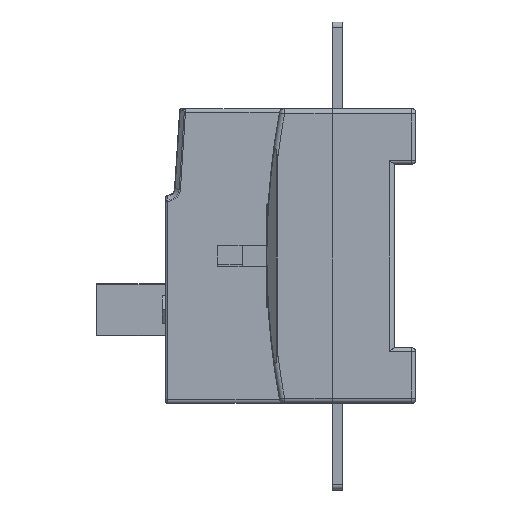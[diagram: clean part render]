
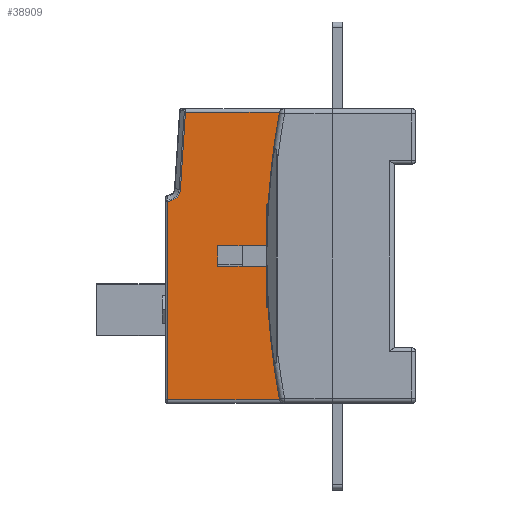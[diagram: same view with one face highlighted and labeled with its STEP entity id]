
A CAD part, left-side view. The second image highlights one B-rep face of the part: STEP entity #38909.
In plain terms, the highlighted planar face has unit normal (-1, 0, 0) as drawn and (1, 0, 0) by its records, which use the part's own axes.
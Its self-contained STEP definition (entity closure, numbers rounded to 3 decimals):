
#36328=DIRECTION('',(0.,1.,0.));
#36329=VECTOR('',#36328,32.5);
#36330=CARTESIAN_POINT('',(30.,0.5,-41.5));
#36331=LINE('',#36330,#36329);
#36336=CARTESIAN_POINT('',(30.,0.5,19.5));
#36337=DIRECTION('',(1.,0.,0.));
#36338=DIRECTION('',(0.,0.,-1.));
#36339=AXIS2_PLACEMENT_3D('',#36336,#36337,#36338);
#36341=DIRECTION('',(0.,0.065,0.998));
#36342=VECTOR('',#36341,22.287);
#36343=CARTESIAN_POINT('',(30.,4.199,19.26));
#36344=LINE('',#36343,#36342);
#36345=DIRECTION('',(0.,0.,-1.));
#36346=VECTOR('',#36345,38.5);
#36347=CARTESIAN_POINT('',(30.,33.,41.5));
#36348=LINE('',#36347,#36346);
#36349=DIRECTION('',(0.,-1.,0.));
#36350=VECTOR('',#36349,18.);
#36351=CARTESIAN_POINT('',(30.,33.,3.));
#36352=LINE('',#36351,#36350);
#36353=DIRECTION('',(0.,0.,-1.));
#36354=VECTOR('',#36353,6.);
#36355=CARTESIAN_POINT('',(30.,15.,3.));
#36356=LINE('',#36355,#36354);
#36357=DIRECTION('',(0.,0.,-1.));
#36358=VECTOR('',#36357,38.5);
#36359=CARTESIAN_POINT('',(30.,33.,-3.));
#36360=LINE('',#36359,#36358);
#36361=DIRECTION('',(0.,0.,-1.));
#36362=VECTOR('',#36361,57.293);
#36363=CARTESIAN_POINT('',(30.,0.5,15.793));
#36364=LINE('',#36363,#36362);
#36967=DIRECTION('',(0.,-1.,0.));
#36968=VECTOR('',#36967,27.354);
#36969=CARTESIAN_POINT('',(30.,33.,41.5));
#36970=LINE('',#36969,#36968);
#37035=DIRECTION('',(0.,-1.,0.));
#37036=VECTOR('',#37035,18.);
#37037=CARTESIAN_POINT('',(30.,33.,-3.));
#37038=LINE('',#37037,#37036);
#38025=CARTESIAN_POINT('',(30.,0.5,-41.5));
#38026=VERTEX_POINT('',#38025);
#38027=CARTESIAN_POINT('',(30.,33.,-41.5));
#38028=VERTEX_POINT('',#38027);
#38029=CARTESIAN_POINT('',(30.,0.5,15.793));
#38030=VERTEX_POINT('',#38029);
#38031=CARTESIAN_POINT('',(30.,4.199,19.26));
#38032=VERTEX_POINT('',#38031);
#38033=CARTESIAN_POINT('',(30.,5.646,41.5));
#38034=VERTEX_POINT('',#38033);
#38035=CARTESIAN_POINT('',(30.,33.,41.5));
#38036=VERTEX_POINT('',#38035);
#38037=CARTESIAN_POINT('',(30.,33.,3.));
#38038=VERTEX_POINT('',#38037);
#38039=CARTESIAN_POINT('',(30.,15.,3.));
#38040=VERTEX_POINT('',#38039);
#38041=CARTESIAN_POINT('',(30.,15.,-3.));
#38042=VERTEX_POINT('',#38041);
#38043=CARTESIAN_POINT('',(30.,33.,-3.));
#38044=VERTEX_POINT('',#38043);
#38883=CARTESIAN_POINT('',(30.,0.,42.5));
#38884=DIRECTION('',(1.,0.,0.));
#38885=DIRECTION('',(0.,0.,-1.));
#38886=AXIS2_PLACEMENT_3D('',#38883,#38884,#38885);
#38887=PLANE('',#38886);
#38889=ORIENTED_EDGE('',*,*,#38888,.F.);
#38891=ORIENTED_EDGE('',*,*,#38890,.T.);
#38893=ORIENTED_EDGE('',*,*,#38892,.T.);
#38895=ORIENTED_EDGE('',*,*,#38894,.F.);
#38897=ORIENTED_EDGE('',*,*,#38896,.T.);
#38899=ORIENTED_EDGE('',*,*,#38898,.T.);
#38901=ORIENTED_EDGE('',*,*,#38900,.T.);
#38903=ORIENTED_EDGE('',*,*,#38902,.F.);
#38905=ORIENTED_EDGE('',*,*,#38904,.T.);
#38906=ORIENTED_EDGE('',*,*,#38875,.F.);
#38907=EDGE_LOOP('',(#38889,#38891,#38893,#38895,#38897,#38899,#38901,#38903,
#38905,#38906));
#38908=FACE_OUTER_BOUND('',#38907,.F.);
#36340=CIRCLE('',#36339,3.707);
#38875=EDGE_CURVE('',#38026,#38028,#36331,.T.);
#38888=EDGE_CURVE('',#38030,#38026,#36364,.T.);
#38890=EDGE_CURVE('',#38030,#38032,#36340,.T.);
#38892=EDGE_CURVE('',#38032,#38034,#36344,.T.);
#38894=EDGE_CURVE('',#38036,#38034,#36970,.T.);
#38896=EDGE_CURVE('',#38036,#38038,#36348,.T.);
#38898=EDGE_CURVE('',#38038,#38040,#36352,.T.);
#38900=EDGE_CURVE('',#38040,#38042,#36356,.T.);
#38902=EDGE_CURVE('',#38044,#38042,#37038,.T.);
#38904=EDGE_CURVE('',#38044,#38028,#36360,.T.);
#38909=ADVANCED_FACE('',(#38908),#38887,.T.);
